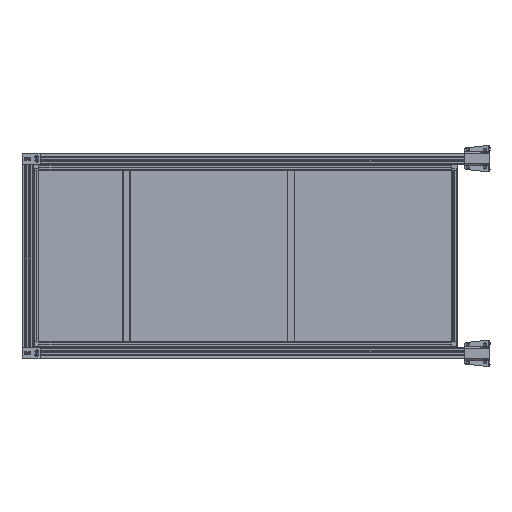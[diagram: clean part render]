
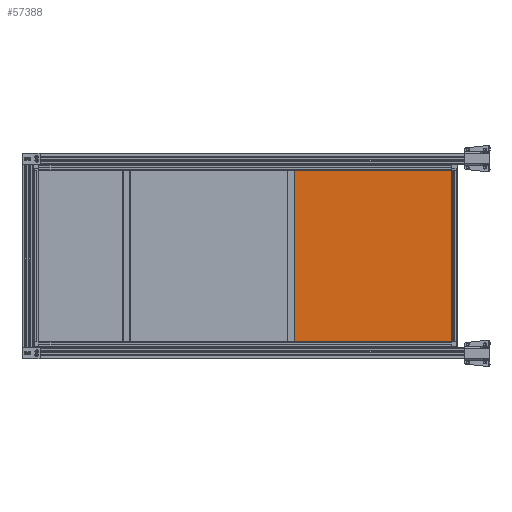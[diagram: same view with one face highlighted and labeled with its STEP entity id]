
A CAD part, top view. The second image highlights one B-rep face of the part: STEP entity #57388.
In plain terms, the highlighted planar face has unit normal (0, 0, 1).
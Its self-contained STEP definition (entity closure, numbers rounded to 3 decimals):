
#4742=FACE_OUTER_BOUND('',#8048,.T.);
#8048=EDGE_LOOP('',(#37644,#37645,#37646,#37647));
#11597=LINE('',#84669,#17347);
#11601=LINE('',#84676,#17351);
#11604=LINE('',#84682,#17354);
#11606=LINE('',#84685,#17356);
#17347=VECTOR('',#66801,10.);
#17351=VECTOR('',#66807,10.);
#17354=VECTOR('',#66812,10.);
#17356=VECTOR('',#66816,10.);
#23093=VERTEX_POINT('',#84666);
#23094=VERTEX_POINT('',#84668);
#23096=VERTEX_POINT('',#84674);
#23098=VERTEX_POINT('',#84680);
#28720=EDGE_CURVE('',#23094,#23093,#11597,.T.);
#28724=EDGE_CURVE('',#23093,#23096,#11601,.T.);
#28727=EDGE_CURVE('',#23096,#23098,#11604,.T.);
#28729=EDGE_CURVE('',#23098,#23094,#11606,.T.);
#37644=ORIENTED_EDGE('',*,*,#28729,.T.);
#37645=ORIENTED_EDGE('',*,*,#28720,.T.);
#37646=ORIENTED_EDGE('',*,*,#28724,.T.);
#37647=ORIENTED_EDGE('',*,*,#28727,.T.);
#55399=PLANE('',#60726);
#57388=ADVANCED_FACE('',(#4742),#55399,.F.);
#60726=AXIS2_PLACEMENT_3D('',#84687,#66819,#66820);
#66801=DIRECTION('',(0.,-1.,0.));
#66807=DIRECTION('',(1.,0.,0.));
#66812=DIRECTION('',(0.,1.,0.));
#66816=DIRECTION('',(-1.,0.,0.));
#66819=DIRECTION('center_axis',(0.,0.,
-1.));
#66820=DIRECTION('ref_axis',(1.,0.,0.));
#84666=CARTESIAN_POINT('',(393.565,-223.744,-433.919));
#84668=CARTESIAN_POINT('',(393.565,731.256,-433.919));
#84669=CARTESIAN_POINT('',(393.565,731.256,-433.919));
#84674=CARTESIAN_POINT('',(1268.565,-223.744,-433.919));
#84676=CARTESIAN_POINT('',(393.565,-223.744,-433.919));
#84680=CARTESIAN_POINT('',(1268.565,731.256,-433.919));
#84682=CARTESIAN_POINT('',(1268.565,-223.744,-433.919));
#84685=CARTESIAN_POINT('',(1268.565,731.256,-433.919));
#84687=CARTESIAN_POINT('Origin',(831.065,253.756,-433.919));
